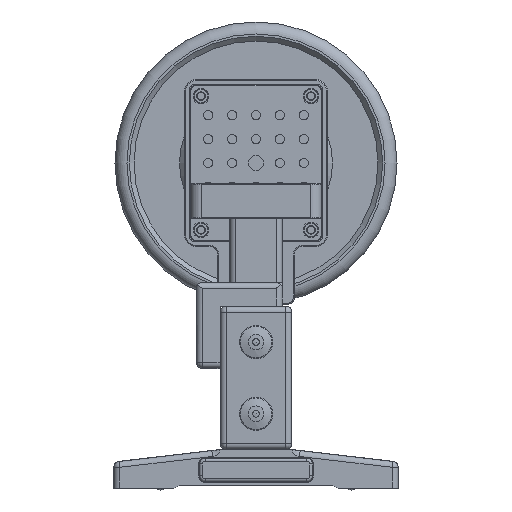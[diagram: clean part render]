
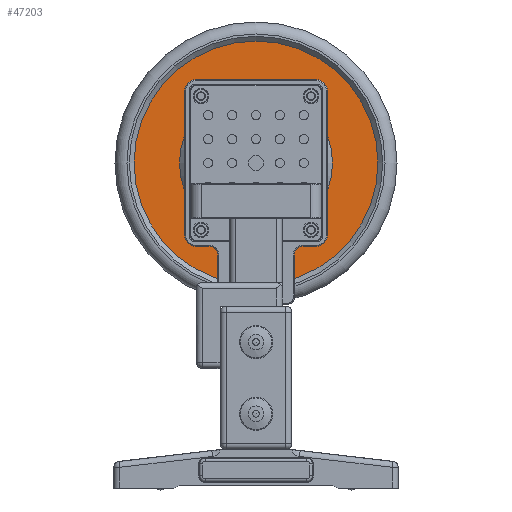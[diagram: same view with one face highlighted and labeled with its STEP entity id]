
A CAD part, left-side view. The second image highlights one B-rep face of the part: STEP entity #47203.
In plain terms, the highlighted planar face has unit normal (-1, 0, 0).
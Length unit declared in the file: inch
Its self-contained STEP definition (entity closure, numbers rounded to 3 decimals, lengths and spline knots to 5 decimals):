
#47172=CARTESIAN_POINT('',(46.81123,62.87403,21.408));
#47173=VERTEX_POINT('',#47172);
#47174=CARTESIAN_POINT('',(46.81123,62.87403,19.808));
#47175=DIRECTION('',(-1.0,0.0,0.0));
#47176=DIRECTION('',(0.0,0.0,1.0));
#47177=AXIS2_PLACEMENT_3D('',#47174,#47175,#47176);
#47178=CIRCLE('',#47177,1.6);
#47179=EDGE_CURVE('',#47173,#47173,#47178,.T.);
#47184=CARTESIAN_POINT('',(46.81123,65.42403,19.808));
#47185=DIRECTION('',(1.0,0.0,0.0));
#47186=DIRECTION('',(0.0,0.0,-1.0));
#47187=AXIS2_PLACEMENT_3D('',#47184,#47185,#47186);
#47188=PLANE('',#47187);
#47189=CARTESIAN_POINT('',(46.81123,62.87403,22.358));
#47190=VERTEX_POINT('',#47189);
#47191=CARTESIAN_POINT('',(46.81123,62.87403,19.808));
#47192=DIRECTION('',(-1.0,0.0,0.0));
#47193=DIRECTION('',(0.0,0.0,1.0));
#47194=AXIS2_PLACEMENT_3D('',#47191,#47192,#47193);
#47195=CIRCLE('',#47194,2.55);
#47196=EDGE_CURVE('',#47190,#47190,#47195,.T.);
#47197=ORIENTED_EDGE('',*,*,#47196,.T.);
#47198=EDGE_LOOP('',(#47197));
#47199=FACE_OUTER_BOUND('',#47198,.T.);
#47200=ORIENTED_EDGE('',*,*,#47179,.F.);
#47201=EDGE_LOOP('',(#47200));
#47202=FACE_BOUND('',#47201,.T.);
#47203=ADVANCED_FACE('',(#47199,#47202),#47188,.F.);
